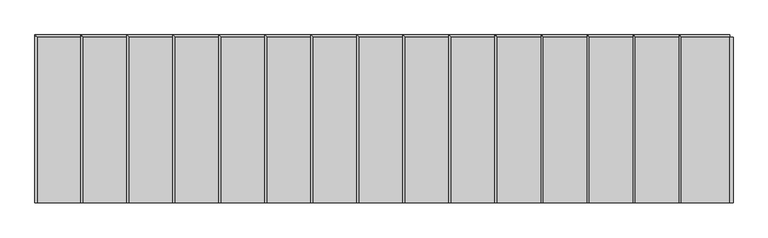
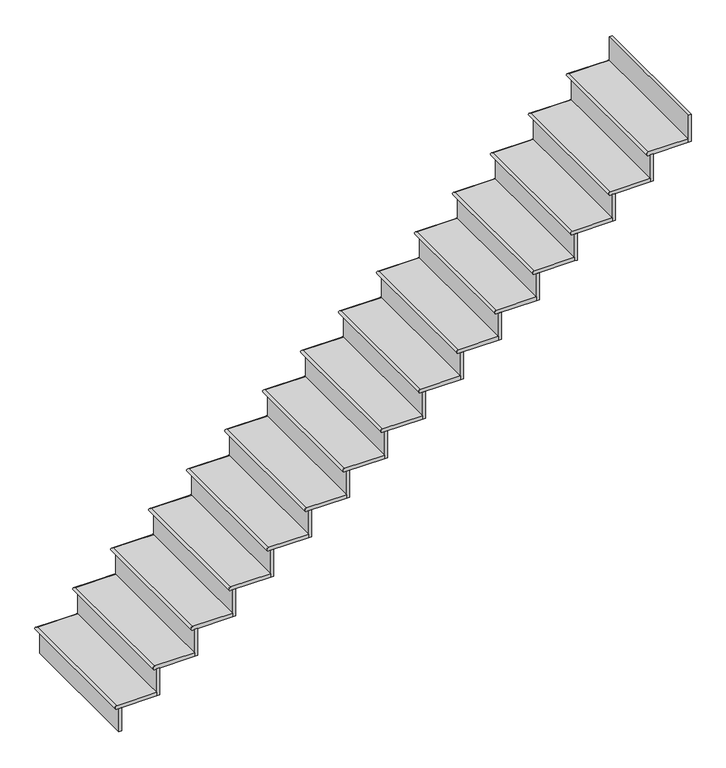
"""IFC4 building model written with IfcOpenShell, lengths in millimetres: stair flight geometry."""

import ifcopenshell
import ifcopenshell.guid

model = None  # the IFC model being written
_history = None  # IfcOwnerHistory: only IFC2X3 demands one
_inside = {}  # id of a spatial element -> (the spatial element, [elements in it])
_under = {}  # id of a project, library or spatial element -> (it, [spatial elements below it])
_declared = {}  # id of a project -> (the project, [libraries it declares])
_typed = {}  # id of a type object -> (the type object, [elements of that type])
_made_of = {}  # id of a material, layer set ... -> (it, [elements and type objects made of it])


def new_model(schema):
    """Start an empty IFC model of exactly this schema.

    Asked for "IFC4X3", IfcOpenShell would pick the latest addendum, in which some entities
    have other attributes; the version numbers below select the first issue.
    IFC2X3 requires an IfcOwnerHistory on every rooted entity: one is made here for all.
    """
    global model, _history
    if schema == "IFC4X3":
        model = ifcopenshell.file(schema_version=(4, 3, 0, 0))
    else:
        model = ifcopenshell.file(schema=schema)
    _inside.clear()
    _under.clear()
    _declared.clear()
    _typed.clear()
    _made_of.clear()
    _history = None
    if model.schema == "IFC2X3":
        org = make("IfcOrganization", Name="unknown")
        user = make(
            "IfcPersonAndOrganization",
            ThePerson=make("IfcPerson", FamilyName="unknown"),
            TheOrganization=org,
        )
        app = make(
            "IfcApplication",
            ApplicationDeveloper=org,
            Version="unknown",
            ApplicationFullName="unknown",
            ApplicationIdentifier="unknown",
        )
        _history = make(
            "IfcOwnerHistory",
            OwningUser=user,
            OwningApplication=app,
            ChangeAction="ADDED",
            CreationDate=0,
        )
    return model


def make(cls, **values):
    """One entity of the class cls with the attributes given. An attribute that is None is left unset."""
    return model.create_entity(
        cls, **{name: value for name, value in values.items() if value is not None}
    )


def rooted(cls, **values):
    """An entity with a GlobalId (a new one), such as an element, a storey or a relation."""
    return make(cls, GlobalId=ifcopenshell.guid.new(), OwnerHistory=_history, **values)


def si_unit(unit_type, name, prefix=None):
    """IfcSIUnit, for example si_unit("LENGTHUNIT", "METRE", prefix="MILLI")."""
    return make("IfcSIUnit", UnitType=unit_type, Prefix=prefix, Name=name)


def assignment(units):
    """IfcUnitAssignment: the units of a project."""
    return None if units is None else make("IfcUnitAssignment", Units=units)


def point(xyz):
    """IfcCartesianPoint."""
    return None if xyz is None else make("IfcCartesianPoint", Coordinates=xyz)


def direction(xyz):
    """IfcDirection."""
    return None if xyz is None else make("IfcDirection", DirectionRatios=xyz)


def frame(location, z_axis=None, x_axis=None):
    """IfcAxis2Placement3D, a coordinate frame: its origin and axes. An axis left out is left unset."""
    return make(
        "IfcAxis2Placement3D",
        Location=point(location),
        Axis=direction(z_axis),
        RefDirection=direction(x_axis),
    )


def origin():
    """The frame at (0, 0, 0) with its axes left unset."""
    return frame((0.0, 0.0, 0.0))


def place(relative_to, where):
    """IfcLocalPlacement: puts the frame where relative to a parent placement (None: the world)."""
    return make(
        "IfcLocalPlacement", PlacementRelTo=relative_to, RelativePlacement=where
    )


def context(
    kind, dimensions, precision=None, world=None, true_north=None, identifier=None
):
    """IfcGeometricRepresentationContext, for example the 3D "Model" context."""
    return make(
        "IfcGeometricRepresentationContext",
        ContextIdentifier=identifier,
        ContextType=kind,
        CoordinateSpaceDimension=dimensions,
        Precision=precision,
        WorldCoordinateSystem=world,
        TrueNorth=true_north,
    )


def project(units=None, contexts=None):
    """IfcProject with its units and contexts."""
    return rooted(
        "IfcProject",
        Name="project",
        RepresentationContexts=contexts,
        UnitsInContext=assignment(units),
    )


def spatial(cls, under=None, at=None, **own):
    """A site, building, storey or space (cls), placed at a placement, below another one or the project."""
    s = rooted(cls, ObjectPlacement=at, **own)
    if under is not None:
        _under.setdefault(under.id(), (under, []))[1].append(s)
    return s


def circle_curve(where, radius):
    """IfcCircle in the frame where."""
    return make("IfcCircle", Position=where, Radius=radius)


def ellipse_curve(where, semi_axis1, semi_axis2):
    """IfcEllipse in the frame where."""
    return make(
        "IfcEllipse", Position=where, SemiAxis1=semi_axis1, SemiAxis2=semi_axis2
    )


def faces_of(points, faces, orient=None, outer=None):
    """IfcFace entities. A face is a list of loops; a loop is a list of indices into points, from 0.

    orient and outer hold one flag for each loop. By default every Orientation is true, the
    first loop of a face is its IfcFaceOuterBound and the others are IfcFaceBound.
    """
    made = []
    for i, loops in enumerate(faces):
        bounds = []
        for j, loop in enumerate(loops):
            is_outer = j == 0 if outer is None else outer[i][j]
            bounds.append(
                make(
                    "IfcFaceOuterBound" if is_outer else "IfcFaceBound",
                    Bound=make("IfcPolyLoop", Polygon=[points[k] for k in loop]),
                    Orientation=True if orient is None else orient[i][j],
                )
            )
        made.append(make("IfcFace", Bounds=bounds))
    return made


def faceted_brep(points, faces, orient=None, outer=None, voids=None):
    """IfcFacetedBrep: a solid bounded by flat faces; with voids (closed shells), ...WithVoids."""
    shared = [point(p) for p in points]
    hull = make("IfcClosedShell", CfsFaces=faces_of(shared, faces, orient, outer))
    if voids is None:
        return make("IfcFacetedBrep", Outer=hull)
    return make(
        "IfcFacetedBrepWithVoids",
        Outer=hull,
        Voids=[
            make(cls, CfsFaces=faces_of(shared, fs, o, b)) for cls, fs, o, b in voids
        ],
    )


def shape(context_of_items, identifier, shape_type, items):
    """IfcShapeRepresentation: the items that make up one representation, for example the "Body"."""
    return make(
        "IfcShapeRepresentation",
        ContextOfItems=context_of_items,
        RepresentationIdentifier=identifier,
        RepresentationType=shape_type,
        Items=items,
    )


def source(mapping_origin, context_of_items, identifier, shape_type, items):
    """IfcRepresentationMap: a shape defined once, which mapped items show again and again."""
    return make(
        "IfcRepresentationMap",
        MappingOrigin=mapping_origin,
        MappedRepresentation=shape(context_of_items, identifier, shape_type, items),
    )


def transform(
    local_origin,
    x_axis=None,
    y_axis=None,
    z_axis=None,
    scale=None,
    scale2=None,
    scale3=None,
    uniform=True,
):
    """IfcCartesianTransformationOperator3D, or its non-uniform kind. x_axis, y_axis, z_axis: its Axis1, 2, 3."""
    if uniform:
        return make(
            "IfcCartesianTransformationOperator3D",
            Axis1=direction(x_axis),
            Axis2=direction(y_axis),
            LocalOrigin=point(local_origin),
            Scale=scale,
            Axis3=direction(z_axis),
        )
    return make(
        "IfcCartesianTransformationOperator3DnonUniform",
        Axis1=direction(x_axis),
        Axis2=direction(y_axis),
        LocalOrigin=point(local_origin),
        Scale=scale,
        Axis3=direction(z_axis),
        Scale2=scale2,
        Scale3=scale3,
    )


def mapped(mapping_source, mapping_target):
    """IfcMappedItem: shows the shape of a source again, moved by a transform."""
    return make(
        "IfcMappedItem", MappingSource=mapping_source, MappingTarget=mapping_target
    )


def made_of(thing, what):
    """Note that an element or type object is made of a material, layer set ...; save() writes the relation."""
    if what is not None:
        _made_of.setdefault(what.id(), (what, []))[1].append(thing)
    return thing


def element(
    cls,
    number,
    at=None,
    inside=None,
    cuts=None,
    type_object=None,
    material=None,
    context=None,
    identifier="Body",
    shape_type=None,
    held_by="IfcProductDefinitionShape",
    body=None,
    shapes=None,
    **own,
):
    """One element of the class cls, such as IfcWall. Its Tag is "e" and its number.

    at: its placement. inside: the storey or other place that contains it. cuts: it is an
    opening in that element (IfcRelVoidsElement). A single representation is given by context,
    identifier, shape_type and body (its items); several are given by shapes. held_by: the class
    of the entity that holds the representations. save() writes the other relations.
    """
    e = rooted(cls, Tag="e%d" % number, ObjectPlacement=at, **own)
    if body is not None:
        shapes = [shape(context, identifier, shape_type, body)]
    if shapes is not None:
        e.Representation = make(held_by, Representations=shapes)
    if inside is not None:
        _inside.setdefault(inside.id(), (inside, []))[1].append(e)
    if cuts is not None:
        rooted(
            "IfcRelVoidsElement", RelatingBuildingElement=cuts, RelatedOpeningElement=e
        )
    if type_object is not None:
        _typed.setdefault(type_object.id(), (type_object, []))[1].append(e)
    return made_of(e, material)


def aggregate(whole, parts):
    """IfcRelAggregates: a whole, such as a stair, and the parts it consists of."""
    return rooted("IfcRelAggregates", RelatingObject=whole, RelatedObjects=parts)


def save(model, path):
    """Write the relations noted so far, then the file.

    IfcRelAggregates (storeys below a building ...), IfcRelContainedInSpatialStructure (elements
    in a storey), IfcRelDefinesByType, IfcRelAssociatesMaterial and IfcRelDeclares: one each for
    every whole, place, type object, material and project.
    """
    for whole, parts in _under.values():
        aggregate(whole, parts)
    for where, things in _inside.values():
        rooted(
            "IfcRelContainedInSpatialStructure",
            RelatedElements=things,
            RelatingStructure=where,
        )
    for kind, things in _typed.values():
        rooted("IfcRelDefinesByType", RelatedObjects=things, RelatingType=kind)
    for what, things in _made_of.values():
        rooted("IfcRelAssociatesMaterial", RelatedObjects=things, RelatingMaterial=what)
    for by, libraries in _declared.values():
        rooted("IfcRelDeclares", RelatingContext=by, RelatedDefinitions=libraries)
    model.write(path)


def plane_surface(at):
    """IfcPlane: the flat surface through the origin of the frame at, square to its z axis."""
    return make("IfcPlane", Position=at)


def cylinder_surface(at, radius):
    """IfcCylindricalSurface: all points at the distance radius from the z axis of the frame at."""
    return make("IfcCylindricalSurface", Position=at, Radius=radius)


def advanced_brep(points, edges, surfaces, faces):
    """IfcAdvancedBrep: a solid bounded by faces that lie on surfaces and meet in shared edges.

    An edge is (start, end): straight between two places in points (the first is 0);
    or (start, end, curve); or (start, end, curve, False) where it runs against its curve.
    A face is (place in surfaces, loops), or (place, loops, False) where it looks against
    its surface's normal. A loop lists edges by number (the first is 1), with a minus sign
    where the edge is run from its end to its start. The first loop is the outer one.
    """
    corners = [point(p) for p in points]
    vertices = [make("IfcVertexPoint", VertexGeometry=c) for c in corners]
    made = []
    for start, end, *more in edges:
        made.append(
            make(
                "IfcEdgeCurve",
                EdgeStart=vertices[start],
                EdgeEnd=vertices[end],
                EdgeGeometry=more[0] if more else make("IfcPolyline", Points=[corners[start], corners[end]]),
                SameSense=more[1] if len(more) > 1 else True,
            )
        )
    hull = []
    for where, loops, *sense in faces:
        bounds = []
        for j, loop in enumerate(loops):
            ring = [make("IfcOrientedEdge", EdgeElement=made[abs(k) - 1], Orientation=k > 0) for k in loop]
            bounds.append(
                make(
                    "IfcFaceOuterBound" if j == 0 else "IfcFaceBound",
                    Bound=make("IfcEdgeLoop", EdgeList=ring),
                    Orientation=True,
                )
            )
        hull.append(make("IfcAdvancedFace", Bounds=bounds, FaceSurface=surfaces[where], SameSense=sense[0] if sense else True))
    return make("IfcAdvancedBrep", Outer=make("IfcClosedShell", CfsFaces=hull))


def stair_flight_2b1a7fe8(model_context):
    return source(origin(), model_context, "Body", "SolidModel", [
        advanced_brep(
        [(-27218.1481446, -2140.0871906, 165.1), (-27218.1481446, -2140.0871906, 190.5), (-27218.1481446, -1225.6871906, 190.5), (-27218.1481446, -1225.6871906, 165.1), (-26951.4481446, -2140.0871906, 190.5), (-26951.4481446, -1225.6871906, 190.5), (-26951.4481446, -2140.0871906, 165.1), (-26951.4481446, -1225.6871906, 165.1)],
        [
            (0, 1, circle_curve(frame((-27218.1481446, -2140.0871906, 177.8), z_axis=(0.0, 1.0, 0.0), x_axis=(1.0, 0.0, 0.0)), 12.7)),
            (1, 2),
            (2, 3, ellipse_curve(frame((-27218.1481446, -1225.6871906, 177.8), z_axis=(-0.7071067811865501, -0.7071067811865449, 0.0), x_axis=(0.7071067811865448, -0.7071067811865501, 0.0)), 17.9605122, 12.7)),
            (3, 0),
            (1, 4),
            (4, 5),
            (5, 2),
            (6, 0),
            (3, 7),
            (7, 6),
            (6, 4),
            (7, 5, circle_curve(frame((-26951.4481446, -1225.6871906, 177.8), z_axis=(1.0, 0.0, 0.0), x_axis=(0.0, -1.0, 0.0)), 12.7)),
        ],
        [
            cylinder_surface(frame((-27218.1481446, -2140.0871906, 177.8), z_axis=(0.0, -1.0, 0.0), x_axis=(1.0, 0.0, 0.0)), 12.7),
            plane_surface(frame((-27230.8481446, -1225.6871906, 190.5), z_axis=(0.0, 0.0, 1.0), x_axis=(-1.0, 0.0, 0.0))),
            plane_surface(frame((-27230.8481446, -1225.6871906, 165.1), z_axis=(0.0, 0.0, -1.0), x_axis=(1.0, 0.0, 0.0))),
            plane_surface(frame((-27218.1481446, -2140.0871906, 190.5), z_axis=(0.0, -1.0, 0.0), x_axis=(0.0, 0.0, -1.0))),
            plane_surface(frame((-26951.4481446, -2140.0871906, 190.5), z_axis=(1.0, 0.0, 0.0), x_axis=(0.0, 0.0, -1.0))),
            cylinder_surface(frame((-27218.1481446, -1225.6871906, 177.8), z_axis=(-1.0, 0.0, 0.0), x_axis=(0.0, -1.0, 0.0)), 12.7),
        ],
        [
            (0, [[1, 2, 3, 4]]),
            (1, [[5, 6, 7, -2]]),
            (2, [[8, -4, 9, 10]]),
            (3, [[-5, -1, -8, 11]]),
            (4, [[-6, -11, -10, 12]]),
            (5, [[-3, -7, -12, -9]]),
        ],
    ),
        faceted_brep([(-27205.4481446, -2140.0871906, 165.1), (-27205.4481446, -2140.0871906, 0.0), (-27186.3981446, -2140.0871906, 0.0), (-27186.3981446, -2140.0871906, 165.1), (-27205.4481446, -1225.6871906, 165.1), (-27186.3981446, -1225.6871906, 165.1), (-27186.3981446, -1225.6871906, 0.0), (-27205.4481446, -1225.6871906, 0.0)], [[[0, 1, 2, 3]], [[4, 5, 6, 7]], [[1, 0, 4, 7]], [[2, 1, 7, 6]], [[3, 2, 6, 5]], [[0, 3, 5, 4]]]),
        faceted_brep([(-26951.4481446, -2140.0871906, 355.6), (-26951.4481446, -2140.0871906, 165.1), (-26932.3981446, -2140.0871906, 165.1), (-26932.3981446, -2140.0871906, 355.6), (-26951.4481446, -1225.6871906, 355.6), (-26932.3981446, -1225.6871906, 355.6), (-26932.3981446, -1225.6871906, 165.1), (-26951.4481446, -1225.6871906, 165.1)], [[[0, 1, 2, 3]], [[4, 5, 6, 7]], [[1, 0, 4, 7]], [[2, 1, 7, 6]], [[3, 2, 6, 5]], [[0, 3, 5, 4]]]),
        advanced_brep(
        [(-26964.1481446, -2140.0871906, 381.0), (-26697.4481446, -2140.0871906, 381.0), (-26697.4481446, -1225.6871906, 381.0), (-26964.1481446, -1225.6871906, 381.0), (-26697.4481446, -2140.0871906, 355.6), (-26964.1481446, -2140.0871906, 355.6), (-26964.1481446, -1225.6871906, 355.6), (-26697.4481446, -1225.6871906, 355.6)],
        [
            (0, 1),
            (1, 2),
            (2, 3),
            (3, 0),
            (4, 5),
            (5, 6),
            (6, 7),
            (7, 4),
            (0, 5, circle_curve(frame((-26964.1481446, -2140.0871906, 368.3), z_axis=(0.0, -1.0, 0.0), x_axis=(1.0, 0.0, 0.0)), 12.7)),
            (4, 1),
            (7, 2, circle_curve(frame((-26697.4481446, -1225.6871906, 368.3), z_axis=(1.0, 0.0, 0.0), x_axis=(0.0, -1.0, 0.0)), 12.7)),
            (3, 6, ellipse_curve(frame((-26964.1481446, -1225.6871906, 368.3), z_axis=(-0.7071067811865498, -0.7071067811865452, 0.0), x_axis=(0.7071067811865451, -0.7071067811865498, 0.0)), 17.9605122, 12.7)),
        ],
        [
            plane_surface(frame((-27230.8481446, -1225.6871906, 381.0), z_axis=(0.0, 0.0, 1.0), x_axis=(-1.0, 0.0, 0.0))),
            plane_surface(frame((-27230.8481446, -1225.6871906, 355.6), z_axis=(0.0, 0.0, -1.0), x_axis=(1.0, 0.0, 0.0))),
            plane_surface(frame((-26964.1481446, -2140.0871906, 381.0), z_axis=(0.0, -1.0, 0.0), x_axis=(0.0, 0.0, -1.0))),
            plane_surface(frame((-26697.4481446, -2140.0871906, 381.0), z_axis=(1.0, 0.0, 0.0), x_axis=(0.0, 0.0, -1.0))),
            cylinder_surface(frame((-26964.1481446, -2140.0871906, 368.3), z_axis=(0.0, -1.0, 0.0), x_axis=(1.0, 0.0, 0.0)), 12.7),
            cylinder_surface(frame((-26964.1481446, -1225.6871906, 368.3), z_axis=(-1.0, 0.0, 0.0), x_axis=(0.0, -1.0, 0.0)), 12.7),
        ],
        [
            (0, [[1, 2, 3, 4]]),
            (1, [[5, 6, 7, 8]]),
            (2, [[-1, 9, -5, 10]]),
            (3, [[-2, -10, -8, 11]]),
            (4, [[-9, -4, 12, -6]]),
            (5, [[-12, -3, -11, -7]]),
        ],
    ),
        faceted_brep([(-26697.4481446, -2140.0871906, 546.1), (-26697.4481446, -2140.0871906, 355.6), (-26678.3981446, -2140.0871906, 355.6), (-26678.3981446, -2140.0871906, 546.1), (-26697.4481446, -1225.6871906, 546.1), (-26678.3981446, -1225.6871906, 546.1), (-26678.3981446, -1225.6871906, 355.6), (-26697.4481446, -1225.6871906, 355.6)], [[[0, 1, 2, 3]], [[4, 5, 6, 7]], [[1, 0, 4, 7]], [[2, 1, 7, 6]], [[3, 2, 6, 5]], [[0, 3, 5, 4]]]),
        advanced_brep(
        [(-26710.1481446, -2140.0871906, 571.5), (-26443.4481446, -2140.0871906, 571.5), (-26443.4481446, -1225.6871906, 571.5), (-26710.1481446, -1225.6871906, 571.5), (-26443.4481446, -2140.0871906, 546.1), (-26710.1481446, -2140.0871906, 546.1), (-26710.1481446, -1225.6871906, 546.1), (-26443.4481446, -1225.6871906, 546.1)],
        [
            (0, 1),
            (1, 2),
            (2, 3),
            (3, 0),
            (4, 5),
            (5, 6),
            (6, 7),
            (7, 4),
            (0, 5, circle_curve(frame((-26710.1481446, -2140.0871906, 558.8), z_axis=(0.0, -1.0, 0.0), x_axis=(1.0, 0.0, 0.0)), 12.7)),
            (4, 1),
            (7, 2, circle_curve(frame((-26443.4481446, -1225.6871906, 558.8), z_axis=(1.0, 0.0, 0.0), x_axis=(0.0, -1.0, 0.0)), 12.7)),
            (3, 6, ellipse_curve(frame((-26710.1481446, -1225.6871906, 558.8), z_axis=(-0.7071067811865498, -0.7071067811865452, 0.0), x_axis=(0.7071067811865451, -0.7071067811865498, 0.0)), 17.9605122, 12.7)),
        ],
        [
            plane_surface(frame((-26976.8481446, -1225.6871906, 571.5), z_axis=(0.0, 0.0, 1.0), x_axis=(-1.0, 0.0, 0.0))),
            plane_surface(frame((-26976.8481446, -1225.6871906, 546.1), z_axis=(0.0, 0.0, -1.0), x_axis=(1.0, 0.0, 0.0))),
            plane_surface(frame((-26710.1481446, -2140.0871906, 571.5), z_axis=(0.0, -1.0, 0.0), x_axis=(0.0, 0.0, -1.0))),
            plane_surface(frame((-26443.4481446, -2140.0871906, 571.5), z_axis=(1.0, 0.0, 0.0), x_axis=(0.0, 0.0, -1.0))),
            cylinder_surface(frame((-26710.1481446, -2140.0871906, 558.8), z_axis=(0.0, -1.0, 0.0), x_axis=(1.0, 0.0, 0.0)), 12.7),
            cylinder_surface(frame((-26710.1481446, -1225.6871906, 558.8), z_axis=(-1.0, 0.0, 0.0), x_axis=(0.0, -1.0, 0.0)), 12.7),
        ],
        [
            (0, [[1, 2, 3, 4]]),
            (1, [[5, 6, 7, 8]]),
            (2, [[-1, 9, -5, 10]]),
            (3, [[-2, -10, -8, 11]]),
            (4, [[-9, -4, 12, -6]]),
            (5, [[-12, -3, -11, -7]]),
        ],
    ),
        faceted_brep([(-26443.4481446, -2140.0871906, 736.6), (-26443.4481446, -2140.0871906, 546.1), (-26424.3981446, -2140.0871906, 546.1), (-26424.3981446, -2140.0871906, 736.6), (-26443.4481446, -1225.6871906, 736.6), (-26424.3981446, -1225.6871906, 736.6), (-26424.3981446, -1225.6871906, 546.1), (-26443.4481446, -1225.6871906, 546.1)], [[[0, 1, 2, 3]], [[4, 5, 6, 7]], [[1, 0, 4, 7]], [[2, 1, 7, 6]], [[3, 2, 6, 5]], [[0, 3, 5, 4]]]),
        advanced_brep(
        [(-26456.1481446, -2140.0871906, 762.0), (-26189.4481446, -2140.0871906, 762.0), (-26189.4481446, -1225.6871906, 762.0), (-26456.1481446, -1225.6871906, 762.0), (-26189.4481446, -2140.0871906, 736.6), (-26456.1481446, -2140.0871906, 736.6), (-26456.1481446, -1225.6871906, 736.6), (-26189.4481446, -1225.6871906, 736.6)],
        [
            (0, 1),
            (1, 2),
            (2, 3),
            (3, 0),
            (4, 5),
            (5, 6),
            (6, 7),
            (7, 4),
            (0, 5, circle_curve(frame((-26456.1481446, -2140.0871906, 749.3), z_axis=(0.0, -1.0, 0.0), x_axis=(1.0, 0.0, 0.0)), 12.7)),
            (4, 1),
            (7, 2, circle_curve(frame((-26189.4481446, -1225.6871906, 749.3), z_axis=(1.0, 0.0, 0.0), x_axis=(0.0, -1.0, 0.0)), 12.7)),
            (3, 6, ellipse_curve(frame((-26456.1481446, -1225.6871906, 749.3), z_axis=(-0.7071067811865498, -0.7071067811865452, 0.0), x_axis=(0.7071067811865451, -0.7071067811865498, 0.0)), 17.9605122, 12.7)),
        ],
        [
            plane_surface(frame((-26722.8481446, -1225.6871906, 762.0), z_axis=(0.0, 0.0, 1.0), x_axis=(-1.0, 0.0, 0.0))),
            plane_surface(frame((-26722.8481446, -1225.6871906, 736.6), z_axis=(0.0, 0.0, -1.0), x_axis=(1.0, 0.0, 0.0))),
            plane_surface(frame((-26456.1481446, -2140.0871906, 762.0), z_axis=(0.0, -1.0, 0.0), x_axis=(0.0, 0.0, -1.0))),
            plane_surface(frame((-26189.4481446, -2140.0871906, 762.0), z_axis=(1.0, 0.0, 0.0), x_axis=(0.0, 0.0, -1.0))),
            cylinder_surface(frame((-26456.1481446, -2140.0871906, 749.3), z_axis=(0.0, -1.0, 0.0), x_axis=(1.0, 0.0, 0.0)), 12.7),
            cylinder_surface(frame((-26456.1481446, -1225.6871906, 749.3), z_axis=(-1.0, 0.0, 0.0), x_axis=(0.0, -1.0, 0.0)), 12.7),
        ],
        [
            (0, [[1, 2, 3, 4]]),
            (1, [[5, 6, 7, 8]]),
            (2, [[-1, 9, -5, 10]]),
            (3, [[-2, -10, -8, 11]]),
            (4, [[-9, -4, 12, -6]]),
            (5, [[-12, -3, -11, -7]]),
        ],
    ),
        faceted_brep([(-26189.4481446, -2140.0871906, 927.1), (-26189.4481446, -2140.0871906, 736.6), (-26170.3981446, -2140.0871906, 736.6), (-26170.3981446, -2140.0871906, 927.1), (-26189.4481446, -1225.6871906, 927.1), (-26170.3981446, -1225.6871906, 927.1), (-26170.3981446, -1225.6871906, 736.6), (-26189.4481446, -1225.6871906, 736.6)], [[[0, 1, 2, 3]], [[4, 5, 6, 7]], [[1, 0, 4, 7]], [[2, 1, 7, 6]], [[3, 2, 6, 5]], [[0, 3, 5, 4]]]),
        advanced_brep(
        [(-26202.1481446, -2140.0871906, 952.5), (-25935.4481446, -2140.0871906, 952.5), (-25935.4481446, -1225.6871906, 952.5), (-26202.1481446, -1225.6871906, 952.5), (-25935.4481446, -2140.0871906, 927.1), (-26202.1481446, -2140.0871906, 927.1), (-26202.1481446, -1225.6871906, 927.1), (-25935.4481446, -1225.6871906, 927.1)],
        [
            (0, 1),
            (1, 2),
            (2, 3),
            (3, 0),
            (4, 5),
            (5, 6),
            (6, 7),
            (7, 4),
            (0, 5, circle_curve(frame((-26202.1481446, -2140.0871906, 939.8), z_axis=(0.0, -1.0, 0.0), x_axis=(1.0, 0.0, 0.0)), 12.7)),
            (4, 1),
            (7, 2, circle_curve(frame((-25935.4481446, -1225.6871906, 939.8), z_axis=(1.0, 0.0, 0.0), x_axis=(0.0, -1.0, 0.0)), 12.7)),
            (3, 6, ellipse_curve(frame((-26202.1481446, -1225.6871906, 939.8), z_axis=(-0.7071067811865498, -0.7071067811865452, 0.0), x_axis=(0.7071067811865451, -0.7071067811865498, 0.0)), 17.9605122, 12.7)),
        ],
        [
            plane_surface(frame((-26468.8481446, -1225.6871906, 952.5), z_axis=(0.0, 0.0, 1.0), x_axis=(-1.0, 0.0, 0.0))),
            plane_surface(frame((-26468.8481446, -1225.6871906, 927.1), z_axis=(0.0, 0.0, -1.0), x_axis=(1.0, 0.0, 0.0))),
            plane_surface(frame((-26202.1481446, -2140.0871906, 952.5), z_axis=(0.0, -1.0, 0.0), x_axis=(0.0, 0.0, -1.0))),
            plane_surface(frame((-25935.4481446, -2140.0871906, 952.5), z_axis=(1.0, 0.0, 0.0), x_axis=(0.0, 0.0, -1.0))),
            cylinder_surface(frame((-26202.1481446, -2140.0871906, 939.8), z_axis=(0.0, -1.0, 0.0), x_axis=(1.0, 0.0, 0.0)), 12.7),
            cylinder_surface(frame((-26202.1481446, -1225.6871906, 939.8), z_axis=(-1.0, 0.0, 0.0), x_axis=(0.0, -1.0, 0.0)), 12.7),
        ],
        [
            (0, [[1, 2, 3, 4]]),
            (1, [[5, 6, 7, 8]]),
            (2, [[-1, 9, -5, 10]]),
            (3, [[-2, -10, -8, 11]]),
            (4, [[-9, -4, 12, -6]]),
            (5, [[-12, -3, -11, -7]]),
        ],
    ),
        faceted_brep([(-25935.4481446, -2140.0871906, 1117.6), (-25935.4481446, -2140.0871906, 927.1), (-25916.3981446, -2140.0871906, 927.1), (-25916.3981446, -2140.0871906, 1117.6), (-25935.4481446, -1225.6871906, 1117.6), (-25916.3981446, -1225.6871906, 1117.6), (-25916.3981446, -1225.6871906, 927.1), (-25935.4481446, -1225.6871906, 927.1)], [[[0, 1, 2, 3]], [[4, 5, 6, 7]], [[1, 0, 4, 7]], [[2, 1, 7, 6]], [[3, 2, 6, 5]], [[0, 3, 5, 4]]]),
        advanced_brep(
        [(-25948.1481446, -2140.0871906, 1143.0), (-25681.4481446, -2140.0871906, 1143.0), (-25681.4481446, -1225.6871906, 1143.0), (-25948.1481446, -1225.6871906, 1143.0), (-25681.4481446, -2140.0871906, 1117.6), (-25948.1481446, -2140.0871906, 1117.6), (-25948.1481446, -1225.6871906, 1117.6), (-25681.4481446, -1225.6871906, 1117.6)],
        [
            (0, 1),
            (1, 2),
            (2, 3),
            (3, 0),
            (4, 5),
            (5, 6),
            (6, 7),
            (7, 4),
            (0, 5, circle_curve(frame((-25948.1481446, -2140.0871906, 1130.3), z_axis=(0.0, -1.0, 0.0), x_axis=(1.0, 0.0, 0.0)), 12.7)),
            (4, 1),
            (7, 2, circle_curve(frame((-25681.4481446, -1225.6871906, 1130.3), z_axis=(1.0, 0.0, 0.0), x_axis=(0.0, -1.0, 0.0)), 12.7)),
            (3, 6, ellipse_curve(frame((-25948.1481446, -1225.6871906, 1130.3), z_axis=(-0.7071067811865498, -0.7071067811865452, 0.0), x_axis=(0.7071067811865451, -0.7071067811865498, 0.0)), 17.9605122, 12.7)),
        ],
        [
            plane_surface(frame((-26214.8481446, -1225.6871906, 1143.0), z_axis=(0.0, 0.0, 1.0), x_axis=(-1.0, 0.0, 0.0))),
            plane_surface(frame((-26214.8481446, -1225.6871906, 1117.6), z_axis=(0.0, 0.0, -1.0), x_axis=(1.0, 0.0, 0.0))),
            plane_surface(frame((-25948.1481446, -2140.0871906, 1143.0), z_axis=(0.0, -1.0, 0.0), x_axis=(0.0, 0.0, -1.0))),
            plane_surface(frame((-25681.4481446, -2140.0871906, 1143.0), z_axis=(1.0, 0.0, 0.0), x_axis=(0.0, 0.0, -1.0))),
            cylinder_surface(frame((-25948.1481446, -2140.0871906, 1130.3), z_axis=(0.0, -1.0, 0.0), x_axis=(1.0, 0.0, 0.0)), 12.7),
            cylinder_surface(frame((-25948.1481446, -1225.6871906, 1130.3), z_axis=(-1.0, 0.0, 0.0), x_axis=(0.0, -1.0, 0.0)), 12.7),
        ],
        [
            (0, [[1, 2, 3, 4]]),
            (1, [[5, 6, 7, 8]]),
            (2, [[-1, 9, -5, 10]]),
            (3, [[-2, -10, -8, 11]]),
            (4, [[-9, -4, 12, -6]]),
            (5, [[-12, -3, -11, -7]]),
        ],
    ),
        faceted_brep([(-25681.4481446, -2140.0871906, 1308.1), (-25681.4481446, -2140.0871906, 1117.6), (-25662.3981446, -2140.0871906, 1117.6), (-25662.3981446, -2140.0871906, 1308.1), (-25681.4481446, -1225.6871906, 1308.1), (-25662.3981446, -1225.6871906, 1308.1), (-25662.3981446, -1225.6871906, 1117.6), (-25681.4481446, -1225.6871906, 1117.6)], [[[0, 1, 2, 3]], [[4, 5, 6, 7]], [[1, 0, 4, 7]], [[2, 1, 7, 6]], [[3, 2, 6, 5]], [[0, 3, 5, 4]]]),
        advanced_brep(
        [(-25694.1481446, -2140.0871906, 1333.5), (-25427.4481446, -2140.0871906, 1333.5), (-25427.4481446, -1225.6871906, 1333.5), (-25694.1481446, -1225.6871906, 1333.5), (-25427.4481446, -2140.0871906, 1308.1), (-25694.1481446, -2140.0871906, 1308.1), (-25694.1481446, -1225.6871906, 1308.1), (-25427.4481446, -1225.6871906, 1308.1)],
        [
            (0, 1),
            (1, 2),
            (2, 3),
            (3, 0),
            (4, 5),
            (5, 6),
            (6, 7),
            (7, 4),
            (0, 5, circle_curve(frame((-25694.1481446, -2140.0871906, 1320.8), z_axis=(0.0, -1.0, 0.0), x_axis=(1.0, 0.0, 0.0)), 12.7)),
            (4, 1),
            (7, 2, circle_curve(frame((-25427.4481446, -1225.6871906, 1320.8), z_axis=(1.0, 0.0, 0.0), x_axis=(0.0, -1.0, 0.0)), 12.7)),
            (3, 6, ellipse_curve(frame((-25694.1481446, -1225.6871906, 1320.8), z_axis=(-0.7071067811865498, -0.7071067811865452, 0.0), x_axis=(0.7071067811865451, -0.7071067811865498, 0.0)), 17.9605122, 12.7)),
        ],
        [
            plane_surface(frame((-25960.8481446, -1225.6871906, 1333.5), z_axis=(0.0, 0.0, 1.0), x_axis=(-1.0, 0.0, 0.0))),
            plane_surface(frame((-25960.8481446, -1225.6871906, 1308.1), z_axis=(0.0, 0.0, -1.0), x_axis=(1.0, 0.0, 0.0))),
            plane_surface(frame((-25694.1481446, -2140.0871906, 1333.5), z_axis=(0.0, -1.0, 0.0), x_axis=(0.0, 0.0, -1.0))),
            plane_surface(frame((-25427.4481446, -2140.0871906, 1333.5), z_axis=(1.0, 0.0, 0.0), x_axis=(0.0, 0.0, -1.0))),
            cylinder_surface(frame((-25694.1481446, -2140.0871906, 1320.8), z_axis=(0.0, -1.0, 0.0), x_axis=(1.0, 0.0, 0.0)), 12.7),
            cylinder_surface(frame((-25694.1481446, -1225.6871906, 1320.8), z_axis=(-1.0, 0.0, 0.0), x_axis=(0.0, -1.0, 0.0)), 12.7),
        ],
        [
            (0, [[1, 2, 3, 4]]),
            (1, [[5, 6, 7, 8]]),
            (2, [[-1, 9, -5, 10]]),
            (3, [[-2, -10, -8, 11]]),
            (4, [[-9, -4, 12, -6]]),
            (5, [[-12, -3, -11, -7]]),
        ],
    ),
        faceted_brep([(-25427.4481446, -2140.0871906, 1498.6), (-25427.4481446, -2140.0871906, 1308.1), (-25408.3981446, -2140.0871906, 1308.1), (-25408.3981446, -2140.0871906, 1498.6), (-25427.4481446, -1225.6871906, 1498.6), (-25408.3981446, -1225.6871906, 1498.6), (-25408.3981446, -1225.6871906, 1308.1), (-25427.4481446, -1225.6871906, 1308.1)], [[[0, 1, 2, 3]], [[4, 5, 6, 7]], [[1, 0, 4, 7]], [[2, 1, 7, 6]], [[3, 2, 6, 5]], [[0, 3, 5, 4]]]),
        advanced_brep(
        [(-25440.1481446, -2140.0871906, 1524.0), (-25173.4481446, -2140.0871906, 1524.0), (-25173.4481446, -1225.6871906, 1524.0), (-25440.1481446, -1225.6871906, 1524.0), (-25173.4481446, -2140.0871906, 1498.6), (-25440.1481446, -2140.0871906, 1498.6), (-25440.1481446, -1225.6871906, 1498.6), (-25173.4481446, -1225.6871906, 1498.6)],
        [
            (0, 1),
            (1, 2),
            (2, 3),
            (3, 0),
            (4, 5),
            (5, 6),
            (6, 7),
            (7, 4),
            (0, 5, circle_curve(frame((-25440.1481446, -2140.0871906, 1511.3), z_axis=(0.0, -1.0, 0.0), x_axis=(1.0, 0.0, 0.0)), 12.7)),
            (4, 1),
            (7, 2, circle_curve(frame((-25173.4481446, -1225.6871906, 1511.3), z_axis=(1.0, 0.0, 0.0), x_axis=(0.0, -1.0, 0.0)), 12.7)),
            (3, 6, ellipse_curve(frame((-25440.1481446, -1225.6871906, 1511.3), z_axis=(-0.7071067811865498, -0.7071067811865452, 0.0), x_axis=(0.7071067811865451, -0.7071067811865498, 0.0)), 17.9605122, 12.7)),
        ],
        [
            plane_surface(frame((-25706.8481446, -1225.6871906, 1524.0), z_axis=(0.0, 0.0, 1.0), x_axis=(-1.0, 0.0, 0.0))),
            plane_surface(frame((-25706.8481446, -1225.6871906, 1498.6), z_axis=(0.0, 0.0, -1.0), x_axis=(1.0, 0.0, 0.0))),
            plane_surface(frame((-25440.1481446, -2140.0871906, 1524.0), z_axis=(0.0, -1.0, 0.0), x_axis=(0.0, 0.0, -1.0))),
            plane_surface(frame((-25173.4481446, -2140.0871906, 1524.0), z_axis=(1.0, 0.0, 0.0), x_axis=(0.0, 0.0, -1.0))),
            cylinder_surface(frame((-25440.1481446, -2140.0871906, 1511.3), z_axis=(0.0, -1.0, 0.0), x_axis=(1.0, 0.0, 0.0)), 12.7),
            cylinder_surface(frame((-25440.1481446, -1225.6871906, 1511.3), z_axis=(-1.0, 0.0, 0.0), x_axis=(0.0, -1.0, 0.0)), 12.7),
        ],
        [
            (0, [[1, 2, 3, 4]]),
            (1, [[5, 6, 7, 8]]),
            (2, [[-1, 9, -5, 10]]),
            (3, [[-2, -10, -8, 11]]),
            (4, [[-9, -4, 12, -6]]),
            (5, [[-12, -3, -11, -7]]),
        ],
    ),
        faceted_brep([(-25173.4481446, -2140.0871906, 1689.1), (-25173.4481446, -2140.0871906, 1498.6), (-25154.3981446, -2140.0871906, 1498.6), (-25154.3981446, -2140.0871906, 1689.1), (-25173.4481446, -1225.6871906, 1689.1), (-25154.3981446, -1225.6871906, 1689.1), (-25154.3981446, -1225.6871906, 1498.6), (-25173.4481446, -1225.6871906, 1498.6)], [[[0, 1, 2, 3]], [[4, 5, 6, 7]], [[1, 0, 4, 7]], [[2, 1, 7, 6]], [[3, 2, 6, 5]], [[0, 3, 5, 4]]]),
        advanced_brep(
        [(-25186.1481446, -2140.0871906, 1714.5), (-24919.4481446, -2140.0871906, 1714.5), (-24919.4481446, -1225.6871906, 1714.5), (-25186.1481446, -1225.6871906, 1714.5), (-24919.4481446, -2140.0871906, 1689.1), (-25186.1481446, -2140.0871906, 1689.1), (-25186.1481446, -1225.6871906, 1689.1), (-24919.4481446, -1225.6871906, 1689.1)],
        [
            (0, 1),
            (1, 2),
            (2, 3),
            (3, 0),
            (4, 5),
            (5, 6),
            (6, 7),
            (7, 4),
            (0, 5, circle_curve(frame((-25186.1481446, -2140.0871906, 1701.8), z_axis=(0.0, -1.0, 0.0), x_axis=(1.0, 0.0, 0.0)), 12.7)),
            (4, 1),
            (7, 2, circle_curve(frame((-24919.4481446, -1225.6871906, 1701.8), z_axis=(1.0, 0.0, 0.0), x_axis=(0.0, -1.0, 0.0)), 12.7)),
            (3, 6, ellipse_curve(frame((-25186.1481446, -1225.6871906, 1701.8), z_axis=(-0.7071067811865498, -0.7071067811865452, 0.0), x_axis=(0.7071067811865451, -0.7071067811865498, 0.0)), 17.9605122, 12.7)),
        ],
        [
            plane_surface(frame((-25452.8481446, -1225.6871906, 1714.5), z_axis=(0.0, 0.0, 1.0), x_axis=(-1.0, 0.0, 0.0))),
            plane_surface(frame((-25452.8481446, -1225.6871906, 1689.1), z_axis=(0.0, 0.0, -1.0), x_axis=(1.0, 0.0, 0.0))),
            plane_surface(frame((-25186.1481446, -2140.0871906, 1714.5), z_axis=(0.0, -1.0, 0.0), x_axis=(0.0, 0.0, -1.0))),
            plane_surface(frame((-24919.4481446, -2140.0871906, 1714.5), z_axis=(1.0, 0.0, 0.0), x_axis=(0.0, 0.0, -1.0))),
            cylinder_surface(frame((-25186.1481446, -2140.0871906, 1701.8), z_axis=(0.0, -1.0, 0.0), x_axis=(1.0, 0.0, 0.0)), 12.7),
            cylinder_surface(frame((-25186.1481446, -1225.6871906, 1701.8), z_axis=(-1.0, 0.0, 0.0), x_axis=(0.0, -1.0, 0.0)), 12.7),
        ],
        [
            (0, [[1, 2, 3, 4]]),
            (1, [[5, 6, 7, 8]]),
            (2, [[-1, 9, -5, 10]]),
            (3, [[-2, -10, -8, 11]]),
            (4, [[-9, -4, 12, -6]]),
            (5, [[-12, -3, -11, -7]]),
        ],
    ),
        faceted_brep([(-24919.4481446, -2140.0871906, 1879.6), (-24919.4481446, -2140.0871906, 1689.1), (-24900.3981446, -2140.0871906, 1689.1), (-24900.3981446, -2140.0871906, 1879.6), (-24919.4481446, -1225.6871906, 1879.6), (-24900.3981446, -1225.6871906, 1879.6), (-24900.3981446, -1225.6871906, 1689.1), (-24919.4481446, -1225.6871906, 1689.1)], [[[0, 1, 2, 3]], [[4, 5, 6, 7]], [[1, 0, 4, 7]], [[2, 1, 7, 6]], [[3, 2, 6, 5]], [[0, 3, 5, 4]]]),
        advanced_brep(
        [(-24932.1481446, -2140.0871906, 1905.0), (-24665.4481446, -2140.0871906, 1905.0), (-24665.4481446, -1225.6871906, 1905.0), (-24932.1481446, -1225.6871906, 1905.0), (-24665.4481446, -2140.0871906, 1879.6), (-24932.1481446, -2140.0871906, 1879.6), (-24932.1481446, -1225.6871906, 1879.6), (-24665.4481446, -1225.6871906, 1879.6)],
        [
            (0, 1),
            (1, 2),
            (2, 3),
            (3, 0),
            (4, 5),
            (5, 6),
            (6, 7),
            (7, 4),
            (0, 5, circle_curve(frame((-24932.1481446, -2140.0871906, 1892.3), z_axis=(0.0, -1.0, 0.0), x_axis=(1.0, 0.0, 0.0)), 12.7)),
            (4, 1),
            (7, 2, circle_curve(frame((-24665.4481446, -1225.6871906, 1892.3), z_axis=(1.0, 0.0, 0.0), x_axis=(0.0, -1.0, 0.0)), 12.7)),
            (3, 6, ellipse_curve(frame((-24932.1481446, -1225.6871906, 1892.3), z_axis=(-0.7071067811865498, -0.7071067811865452, 0.0), x_axis=(0.7071067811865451, -0.7071067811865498, 0.0)), 17.9605122, 12.7)),
        ],
        [
            plane_surface(frame((-25198.8481446, -1225.6871906, 1905.0), z_axis=(0.0, 0.0, 1.0), x_axis=(-1.0, 0.0, 0.0))),
            plane_surface(frame((-25198.8481446, -1225.6871906, 1879.6), z_axis=(0.0, 0.0, -1.0), x_axis=(1.0, 0.0, 0.0))),
            plane_surface(frame((-24932.1481446, -2140.0871906, 1905.0), z_axis=(0.0, -1.0, 0.0), x_axis=(0.0, 0.0, -1.0))),
            plane_surface(frame((-24665.4481446, -2140.0871906, 1905.0), z_axis=(1.0, 0.0, 0.0), x_axis=(0.0, 0.0, -1.0))),
            cylinder_surface(frame((-24932.1481446, -2140.0871906, 1892.3), z_axis=(0.0, -1.0, 0.0), x_axis=(1.0, 0.0, 0.0)), 12.7),
            cylinder_surface(frame((-24932.1481446, -1225.6871906, 1892.3), z_axis=(-1.0, 0.0, 0.0), x_axis=(0.0, -1.0, 0.0)), 12.7),
        ],
        [
            (0, [[1, 2, 3, 4]]),
            (1, [[5, 6, 7, 8]]),
            (2, [[-1, 9, -5, 10]]),
            (3, [[-2, -10, -8, 11]]),
            (4, [[-9, -4, 12, -6]]),
            (5, [[-12, -3, -11, -7]]),
        ],
    ),
        faceted_brep([(-24665.4481446, -2140.0871906, 2070.1), (-24665.4481446, -2140.0871906, 1879.6), (-24646.3981446, -2140.0871906, 1879.6), (-24646.3981446, -2140.0871906, 2070.1), (-24665.4481446, -1225.6871906, 2070.1), (-24646.3981446, -1225.6871906, 2070.1), (-24646.3981446, -1225.6871906, 1879.6), (-24665.4481446, -1225.6871906, 1879.6)], [[[0, 1, 2, 3]], [[4, 5, 6, 7]], [[1, 0, 4, 7]], [[2, 1, 7, 6]], [[3, 2, 6, 5]], [[0, 3, 5, 4]]]),
        advanced_brep(
        [(-24678.1481446, -2140.0871906, 2095.5), (-24411.4481446, -2140.0871906, 2095.5), (-24411.4481446, -1225.6871906, 2095.5), (-24678.1481446, -1225.6871906, 2095.5), (-24411.4481446, -2140.0871906, 2070.1), (-24678.1481446, -2140.0871906, 2070.1), (-24678.1481446, -1225.6871906, 2070.1), (-24411.4481446, -1225.6871906, 2070.1)],
        [
            (0, 1),
            (1, 2),
            (2, 3),
            (3, 0),
            (4, 5),
            (5, 6),
            (6, 7),
            (7, 4),
            (0, 5, circle_curve(frame((-24678.1481446, -2140.0871906, 2082.8), z_axis=(0.0, -1.0, 0.0), x_axis=(1.0, 0.0, 0.0)), 12.7)),
            (4, 1),
            (7, 2, circle_curve(frame((-24411.4481446, -1225.6871906, 2082.8), z_axis=(1.0, 0.0, 0.0), x_axis=(0.0, -1.0, 0.0)), 12.7)),
            (3, 6, ellipse_curve(frame((-24678.1481446, -1225.6871906, 2082.8), z_axis=(-0.7071067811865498, -0.7071067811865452, 0.0), x_axis=(0.7071067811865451, -0.7071067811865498, 0.0)), 17.9605122, 12.7)),
        ],
        [
            plane_surface(frame((-24944.8481446, -1225.6871906, 2095.5), z_axis=(0.0, 0.0, 1.0), x_axis=(-1.0, 0.0, 0.0))),
            plane_surface(frame((-24944.8481446, -1225.6871906, 2070.1), z_axis=(0.0, 0.0, -1.0), x_axis=(1.0, 0.0, 0.0))),
            plane_surface(frame((-24678.1481446, -2140.0871906, 2095.5), z_axis=(0.0, -1.0, 0.0), x_axis=(0.0, 0.0, -1.0))),
            plane_surface(frame((-24411.4481446, -2140.0871906, 2095.5), z_axis=(1.0, 0.0, 0.0), x_axis=(0.0, 0.0, -1.0))),
            cylinder_surface(frame((-24678.1481446, -2140.0871906, 2082.8), z_axis=(0.0, -1.0, 0.0), x_axis=(1.0, 0.0, 0.0)), 12.7),
            cylinder_surface(frame((-24678.1481446, -1225.6871906, 2082.8), z_axis=(-1.0, 0.0, 0.0), x_axis=(0.0, -1.0, 0.0)), 12.7),
        ],
        [
            (0, [[1, 2, 3, 4]]),
            (1, [[5, 6, 7, 8]]),
            (2, [[-1, 9, -5, 10]]),
            (3, [[-2, -10, -8, 11]]),
            (4, [[-9, -4, 12, -6]]),
            (5, [[-12, -3, -11, -7]]),
        ],
    ),
        faceted_brep([(-24411.4481446, -2140.0871906, 2260.6), (-24411.4481446, -2140.0871906, 2070.1), (-24392.3981446, -2140.0871906, 2070.1), (-24392.3981446, -2140.0871906, 2260.6), (-24411.4481446, -1225.6871906, 2260.6), (-24392.3981446, -1225.6871906, 2260.6), (-24392.3981446, -1225.6871906, 2070.1), (-24411.4481446, -1225.6871906, 2070.1)], [[[0, 1, 2, 3]], [[4, 5, 6, 7]], [[1, 0, 4, 7]], [[2, 1, 7, 6]], [[3, 2, 6, 5]], [[0, 3, 5, 4]]]),
        advanced_brep(
        [(-24424.1481446, -2140.0871906, 2286.0), (-24157.4481446, -2140.0871906, 2286.0), (-24157.4481446, -1225.6871906, 2286.0), (-24424.1481446, -1225.6871906, 2286.0), (-24157.4481446, -2140.0871906, 2260.6), (-24424.1481446, -2140.0871906, 2260.6), (-24424.1481446, -1225.6871906, 2260.6), (-24157.4481446, -1225.6871906, 2260.6)],
        [
            (0, 1),
            (1, 2),
            (2, 3),
            (3, 0),
            (4, 5),
            (5, 6),
            (6, 7),
            (7, 4),
            (0, 5, circle_curve(frame((-24424.1481446, -2140.0871906, 2273.3), z_axis=(0.0, -1.0, 0.0), x_axis=(1.0, 0.0, 0.0)), 12.7)),
            (4, 1),
            (7, 2, circle_curve(frame((-24157.4481446, -1225.6871906, 2273.3), z_axis=(1.0, 0.0, 0.0), x_axis=(0.0, -1.0, 0.0)), 12.7)),
            (3, 6, ellipse_curve(frame((-24424.1481446, -1225.6871906, 2273.3), z_axis=(-0.7071067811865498, -0.7071067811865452, 0.0), x_axis=(0.7071067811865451, -0.7071067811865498, 0.0)), 17.9605122, 12.7)),
        ],
        [
            plane_surface(frame((-24690.8481446, -1225.6871906, 2286.0), z_axis=(0.0, 0.0, 1.0), x_axis=(-1.0, 0.0, 0.0))),
            plane_surface(frame((-24690.8481446, -1225.6871906, 2260.6), z_axis=(0.0, 0.0, -1.0), x_axis=(1.0, 0.0, 0.0))),
            plane_surface(frame((-24424.1481446, -2140.0871906, 2286.0), z_axis=(0.0, -1.0, 0.0), x_axis=(0.0, 0.0, -1.0))),
            plane_surface(frame((-24157.4481446, -2140.0871906, 2286.0), z_axis=(1.0, 0.0, 0.0), x_axis=(0.0, 0.0, -1.0))),
            cylinder_surface(frame((-24424.1481446, -2140.0871906, 2273.3), z_axis=(0.0, -1.0, 0.0), x_axis=(1.0, 0.0, 0.0)), 12.7),
            cylinder_surface(frame((-24424.1481446, -1225.6871906, 2273.3), z_axis=(-1.0, 0.0, 0.0), x_axis=(0.0, -1.0, 0.0)), 12.7),
        ],
        [
            (0, [[1, 2, 3, 4]]),
            (1, [[5, 6, 7, 8]]),
            (2, [[-1, 9, -5, 10]]),
            (3, [[-2, -10, -8, 11]]),
            (4, [[-9, -4, 12, -6]]),
            (5, [[-12, -3, -11, -7]]),
        ],
    ),
        faceted_brep([(-24157.4481446, -2140.0871906, 2451.1), (-24157.4481446, -2140.0871906, 2260.6), (-24138.3981446, -2140.0871906, 2260.6), (-24138.3981446, -2140.0871906, 2451.1), (-24157.4481446, -1225.6871906, 2451.1), (-24138.3981446, -1225.6871906, 2451.1), (-24138.3981446, -1225.6871906, 2260.6), (-24157.4481446, -1225.6871906, 2260.6)], [[[0, 1, 2, 3]], [[4, 5, 6, 7]], [[1, 0, 4, 7]], [[2, 1, 7, 6]], [[3, 2, 6, 5]], [[0, 3, 5, 4]]]),
        advanced_brep(
        [(-24170.1481446, -2140.0871906, 2476.5), (-23903.4481446, -2140.0871906, 2476.5), (-23903.4481446, -1225.6871906, 2476.5), (-24170.1481446, -1225.6871906, 2476.5), (-23903.4481446, -2140.0871906, 2451.1), (-24170.1481446, -2140.0871906, 2451.1), (-24170.1481446, -1225.6871906, 2451.1), (-23903.4481446, -1225.6871906, 2451.1)],
        [
            (0, 1),
            (1, 2),
            (2, 3),
            (3, 0),
            (4, 5),
            (5, 6),
            (6, 7),
            (7, 4),
            (0, 5, circle_curve(frame((-24170.1481446, -2140.0871906, 2463.8), z_axis=(0.0, -1.0, 0.0), x_axis=(1.0, 0.0, 0.0)), 12.7)),
            (4, 1),
            (7, 2, circle_curve(frame((-23903.4481446, -1225.6871906, 2463.8), z_axis=(1.0, 0.0, 0.0), x_axis=(0.0, -1.0, 0.0)), 12.7)),
            (3, 6, ellipse_curve(frame((-24170.1481446, -1225.6871906, 2463.8), z_axis=(-0.7071067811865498, -0.7071067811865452, 0.0), x_axis=(0.7071067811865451, -0.7071067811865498, 0.0)), 17.9605122, 12.7)),
        ],
        [
            plane_surface(frame((-24436.8481446, -1225.6871906, 2476.5), z_axis=(0.0, 0.0, 1.0), x_axis=(-1.0, 0.0, 0.0))),
            plane_surface(frame((-24436.8481446, -1225.6871906, 2451.1), z_axis=(0.0, 0.0, -1.0), x_axis=(1.0, 0.0, 0.0))),
            plane_surface(frame((-24170.1481446, -2140.0871906, 2476.5), z_axis=(0.0, -1.0, 0.0), x_axis=(0.0, 0.0, -1.0))),
            plane_surface(frame((-23903.4481446, -2140.0871906, 2476.5), z_axis=(1.0, 0.0, 0.0), x_axis=(0.0, 0.0, -1.0))),
            cylinder_surface(frame((-24170.1481446, -2140.0871906, 2463.8), z_axis=(0.0, -1.0, 0.0), x_axis=(1.0, 0.0, 0.0)), 12.7),
            cylinder_surface(frame((-24170.1481446, -1225.6871906, 2463.8), z_axis=(-1.0, 0.0, 0.0), x_axis=(0.0, -1.0, 0.0)), 12.7),
        ],
        [
            (0, [[1, 2, 3, 4]]),
            (1, [[5, 6, 7, 8]]),
            (2, [[-1, 9, -5, 10]]),
            (3, [[-2, -10, -8, 11]]),
            (4, [[-9, -4, 12, -6]]),
            (5, [[-12, -3, -11, -7]]),
        ],
    ),
        faceted_brep([(-23903.4481446, -2140.0871906, 2641.6), (-23903.4481446, -2140.0871906, 2451.1), (-23884.3981446, -2140.0871906, 2451.1), (-23884.3981446, -2140.0871906, 2641.6), (-23903.4481446, -1225.6871906, 2641.6), (-23884.3981446, -1225.6871906, 2641.6), (-23884.3981446, -1225.6871906, 2451.1), (-23903.4481446, -1225.6871906, 2451.1)], [[[0, 1, 2, 3]], [[4, 5, 6, 7]], [[1, 0, 4, 7]], [[2, 1, 7, 6]], [[3, 2, 6, 5]], [[0, 3, 5, 4]]]),
        advanced_brep(
        [(-23916.1481446, -2140.0871906, 2667.0), (-23649.4481446, -2140.0871906, 2667.0), (-23649.4481446, -1225.6871906, 2667.0), (-23916.1481446, -1225.6871906, 2667.0), (-23649.4481446, -2140.0871906, 2641.6), (-23916.1481446, -2140.0871906, 2641.6), (-23916.1481446, -1225.6871906, 2641.6), (-23649.4481446, -1225.6871906, 2641.6)],
        [
            (0, 1),
            (1, 2),
            (2, 3),
            (3, 0),
            (4, 5),
            (5, 6),
            (6, 7),
            (7, 4),
            (0, 5, circle_curve(frame((-23916.1481446, -2140.0871906, 2654.3), z_axis=(0.0, -1.0, 0.0), x_axis=(1.0, 0.0, 0.0)), 12.7)),
            (4, 1),
            (7, 2, circle_curve(frame((-23649.4481446, -1225.6871906, 2654.3), z_axis=(1.0, 0.0, 0.0), x_axis=(0.0, -1.0, 0.0)), 12.7)),
            (3, 6, ellipse_curve(frame((-23916.1481446, -1225.6871906, 2654.3), z_axis=(-0.7071067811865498, -0.7071067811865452, 0.0), x_axis=(0.7071067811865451, -0.7071067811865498, 0.0)), 17.9605122, 12.7)),
        ],
        [
            plane_surface(frame((-24182.8481446, -1225.6871906, 2667.0), z_axis=(0.0, 0.0, 1.0), x_axis=(-1.0, 0.0, 0.0))),
            plane_surface(frame((-24182.8481446, -1225.6871906, 2641.6), z_axis=(0.0, 0.0, -1.0), x_axis=(1.0, 0.0, 0.0))),
            plane_surface(frame((-23916.1481446, -2140.0871906, 2667.0), z_axis=(0.0, -1.0, 0.0), x_axis=(0.0, 0.0, -1.0))),
            plane_surface(frame((-23649.4481446, -2140.0871906, 2667.0), z_axis=(1.0, 0.0, 0.0), x_axis=(0.0, 0.0, -1.0))),
            cylinder_surface(frame((-23916.1481446, -2140.0871906, 2654.3), z_axis=(0.0, -1.0, 0.0), x_axis=(1.0, 0.0, 0.0)), 12.7),
            cylinder_surface(frame((-23916.1481446, -1225.6871906, 2654.3), z_axis=(-1.0, 0.0, 0.0), x_axis=(0.0, -1.0, 0.0)), 12.7),
        ],
        [
            (0, [[1, 2, 3, 4]]),
            (1, [[5, 6, 7, 8]]),
            (2, [[-1, 9, -5, 10]]),
            (3, [[-2, -10, -8, 11]]),
            (4, [[-9, -4, 12, -6]]),
            (5, [[-12, -3, -11, -7]]),
        ],
    ),
        faceted_brep([(-23649.4481446, -2140.0871906, 2832.1), (-23649.4481446, -2140.0871906, 2641.6), (-23630.3981446, -2140.0871906, 2641.6), (-23630.3981446, -2140.0871906, 2832.1), (-23649.4481446, -1225.6871906, 2832.1), (-23630.3981446, -1225.6871906, 2832.1), (-23630.3981446, -1225.6871906, 2641.6), (-23649.4481446, -1225.6871906, 2641.6)], [[[0, 1, 2, 3]], [[4, 5, 6, 7]], [[1, 0, 4, 7]], [[2, 1, 7, 6]], [[3, 2, 6, 5]], [[0, 3, 5, 4]]]),
        faceted_brep([(-23395.4481446, -2140.0871906, 3022.6), (-23395.4481446, -2140.0871906, 2832.1), (-23376.3981446, -2140.0871906, 2832.1), (-23376.3981446, -2140.0871906, 3022.6), (-23395.4481446, -1225.6871906, 3022.6), (-23376.3981446, -1225.6871906, 3022.6), (-23376.3981446, -1225.6871906, 2832.1), (-23395.4481446, -1225.6871906, 2832.1)], [[[0, 1, 2, 3]], [[4, 5, 6, 7]], [[1, 0, 4, 7]], [[2, 1, 7, 6]], [[3, 2, 6, 5]], [[0, 3, 5, 4]]]),
        advanced_brep(
        [(-23662.1481446, -2140.0871906, 2857.5), (-23395.4481446, -2140.0871906, 2857.5), (-23395.4481446, -1225.6871906, 2857.5), (-23662.1481446, -1225.6871906, 2857.5), (-23395.4481446, -2140.0871906, 2832.1), (-23662.1481446, -2140.0871906, 2832.1), (-23662.1481446, -1225.6871906, 2832.1), (-23395.4481446, -1225.6871906, 2832.1)],
        [
            (0, 1),
            (1, 2),
            (2, 3),
            (3, 0),
            (4, 5),
            (5, 6),
            (6, 7),
            (7, 4),
            (0, 5, circle_curve(frame((-23662.1481446, -2140.0871906, 2844.8), z_axis=(0.0, -1.0, 0.0), x_axis=(1.0, 0.0, 0.0)), 12.7)),
            (4, 1),
            (7, 2, circle_curve(frame((-23395.4481446, -1225.6871906, 2844.8), z_axis=(1.0, 0.0, 0.0), x_axis=(0.0, -1.0, 0.0)), 12.7)),
            (3, 6, ellipse_curve(frame((-23662.1481446, -1225.6871906, 2844.8), z_axis=(-0.7071067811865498, -0.7071067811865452, 0.0), x_axis=(0.7071067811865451, -0.7071067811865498, 0.0)), 17.9605122, 12.7)),
        ],
        [
            plane_surface(frame((-23928.8481446, -1225.6871906, 2857.5), z_axis=(0.0, 0.0, 1.0), x_axis=(-1.0, 0.0, 0.0))),
            plane_surface(frame((-23928.8481446, -1225.6871906, 2832.1), z_axis=(0.0, 0.0, -1.0), x_axis=(1.0, 0.0, 0.0))),
            plane_surface(frame((-23662.1481446, -2140.0871906, 2857.5), z_axis=(0.0, -1.0, 0.0), x_axis=(0.0, 0.0, -1.0))),
            plane_surface(frame((-23395.4481446, -2140.0871906, 2857.5), z_axis=(1.0, 0.0, 0.0), x_axis=(0.0, 0.0, -1.0))),
            cylinder_surface(frame((-23662.1481446, -2140.0871906, 2844.8), z_axis=(0.0, -1.0, 0.0), x_axis=(1.0, 0.0, 0.0)), 12.7),
            cylinder_surface(frame((-23662.1481446, -1225.6871906, 2844.8), z_axis=(-1.0, 0.0, 0.0), x_axis=(0.0, -1.0, 0.0)), 12.7),
        ],
        [
            (0, [[1, 2, 3, 4]]),
            (1, [[5, 6, 7, 8]]),
            (2, [[-1, 9, -5, 10]]),
            (3, [[-2, -10, -8, 11]]),
            (4, [[-9, -4, 12, -6]]),
            (5, [[-12, -3, -11, -7]]),
        ],
    ),
    ])


if __name__ == "__main__":
    model = new_model("IFC4")
    model_context = context("Model", 3, world=origin())
    ifc_project = project(units=[si_unit("LENGTHUNIT", "METRE", prefix="MILLI")], contexts=[model_context])
    site = spatial("IfcSite", under=ifc_project)
    building = spatial("IfcBuilding", under=site)
    placement = place(None, origin())
    stair_flight_shape = stair_flight_2b1a7fe8(model_context)
    element("IfcStairFlight", 1, ObjectType="Unassigned Steps with 1\" Tread 1\" Nosing 3/4\" Riser (3)", at=placement, inside=building, context=model_context, shape_type="MappedRepresentation", body=[
        mapped(stair_flight_shape, transform((0.0, 0.0, 0.0), x_axis=(1.0, 0.0, 0.0), y_axis=(0.0, 1.0, 0.0), z_axis=(0.0, 0.0, 1.0))),
    ])
    save(model, "model.ifc")
